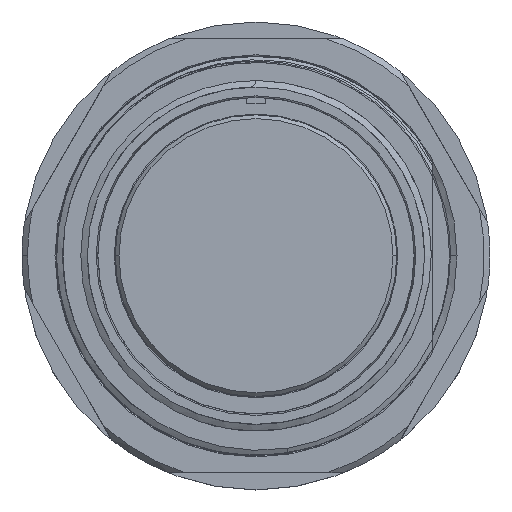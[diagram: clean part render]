
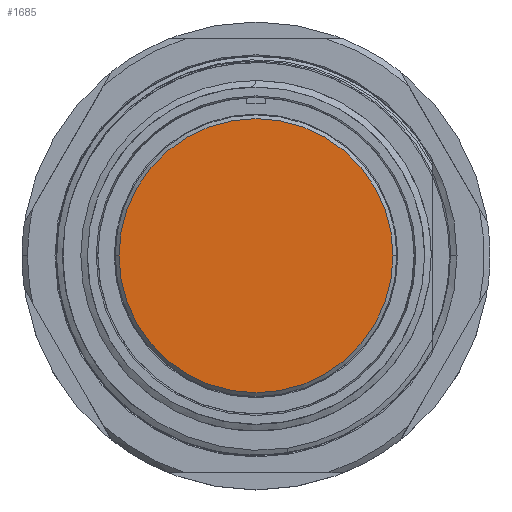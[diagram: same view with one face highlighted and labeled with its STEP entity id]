
A CAD part, top view. The second image highlights one B-rep face of the part: STEP entity #1685.
In plain terms, the highlighted planar face has unit normal (0, 0, 1).
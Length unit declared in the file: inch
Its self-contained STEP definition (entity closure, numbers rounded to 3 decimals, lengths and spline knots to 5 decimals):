
#1167 = CARTESIAN_POINT ( 'NONE',  ( -0.7295, 0., -0.018 ) ) ;
#1589 = DIRECTION ( 'NONE',  ( 0., 0., 1. ) ) ;
#1685 = ADVANCED_FACE ( 'NONE', ( #3082 ), #12900, .T. ) ;
#1860 = EDGE_CURVE ( 'NONE', #4373, #2127, #1919, .T. ) ;
#1869 = CARTESIAN_POINT ( 'NONE',  ( 0., 0., -0.018 ) ) ;
#1919 = CIRCLE ( 'NONE', #15796, 0.7295 ) ;
#2127 = VERTEX_POINT ( 'NONE', #3049 ) ;
#2567 = DIRECTION ( 'NONE',  ( 1., 0., 0. ) ) ;
#3049 = CARTESIAN_POINT ( 'NONE',  ( 0.7295, 0., -0.018 ) ) ;
#3082 = FACE_OUTER_BOUND ( 'NONE', #5280, .T. ) ;
#4177 = CARTESIAN_POINT ( 'NONE',  ( 0., 0., -0.018 ) ) ;
#4373 = VERTEX_POINT ( 'NONE', #1167 ) ;
#5280 = EDGE_LOOP ( 'NONE', ( #5630, #14200 ) ) ;
#5630 = ORIENTED_EDGE ( 'NONE', *, *, #1860, .T. ) ;
#6802 = DIRECTION ( 'NONE',  ( 0., 0., 1. ) ) ;
#8791 = CARTESIAN_POINT ( 'NONE',  ( 0., 0., -0.018 ) ) ;
#9271 = EDGE_CURVE ( 'NONE', #2127, #4373, #14584, .T. ) ;
#11697 = DIRECTION ( 'NONE',  ( 1., 0., 0. ) ) ;
#12532 = DIRECTION ( 'NONE',  ( 1., 0., 0. ) ) ;
#12900 = PLANE ( 'NONE',  #14502 ) ;
#13911 = DIRECTION ( 'NONE',  ( 0., 0., 1. ) ) ;
#14076 = AXIS2_PLACEMENT_3D ( 'NONE', #4177, #13911, #12532 ) ;
#14200 = ORIENTED_EDGE ( 'NONE', *, *, #9271, .T. ) ;
#14502 = AXIS2_PLACEMENT_3D ( 'NONE', #1869, #6802, #11697 ) ;
#14584 = CIRCLE ( 'NONE', #14076, 0.7295 ) ;
#15796 = AXIS2_PLACEMENT_3D ( 'NONE', #8791, #1589, #2567 ) ;
